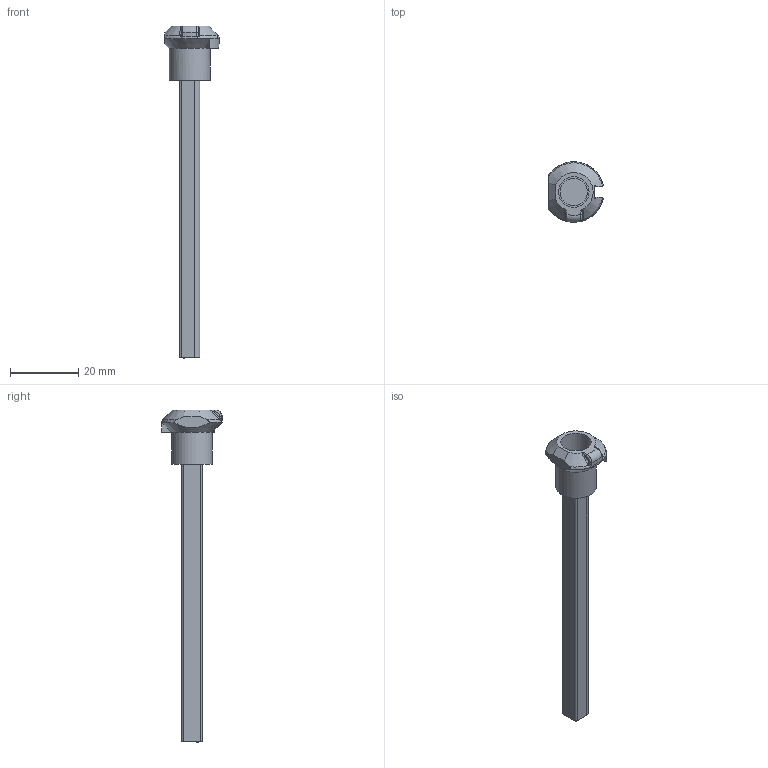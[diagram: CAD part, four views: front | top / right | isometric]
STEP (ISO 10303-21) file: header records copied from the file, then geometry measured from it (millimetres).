
FILE_DESCRIPTION(/* description */ (''),/* implementation_level */ '2;1');
FILE_NAME(/* name */ '140M-C-DS.stp',/* time_stamp */ '2013-06-17T09:19:39+02:00',/* author */ (''),/* organization */ (''),/* preprocessor_version */ 'ST-DEVELOPER v11',/* originating_system */ 'SIEMENS PLM Software NX 7.5',/* authorisation */ '');
FILE_SCHEMA (('AUTOMOTIVE_DESIGN { 1 0 10303 214 1 1 1 1 }'));
Length unit declared in the file: millimetre
Products named in the file (1): 21_341_203_01___002_stp
Bounding box: 15.93 x 17.79 x 97.6 mm (x, y, z)
Volume: 3680.7 mm3; surface area: 4969 mm2
Topology: 3 solids, 3 shells, 91 faces, 225 edges, 141 vertices
Faces by surface type: plane 37, cylinder 36, bspline 10, cone 4, torus 4
Full cylindrical faces by diameter (mm): 4 x1, 4.2 x1, 8 x1, 9 x1, 12 x1
Entity records: 2987 total; most frequent: CARTESIAN_POINT 803, ORIENTED_EDGE 432, DIRECTION 415, EDGE_CURVE 216, AXIS2_PLACEMENT_3D 161, VERTEX_POINT 139, EDGE_LOOP 103, LINE 93
